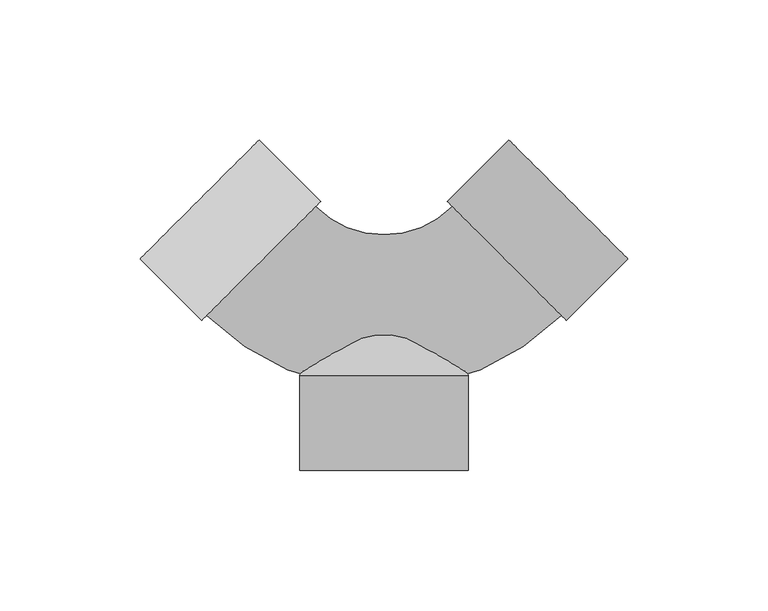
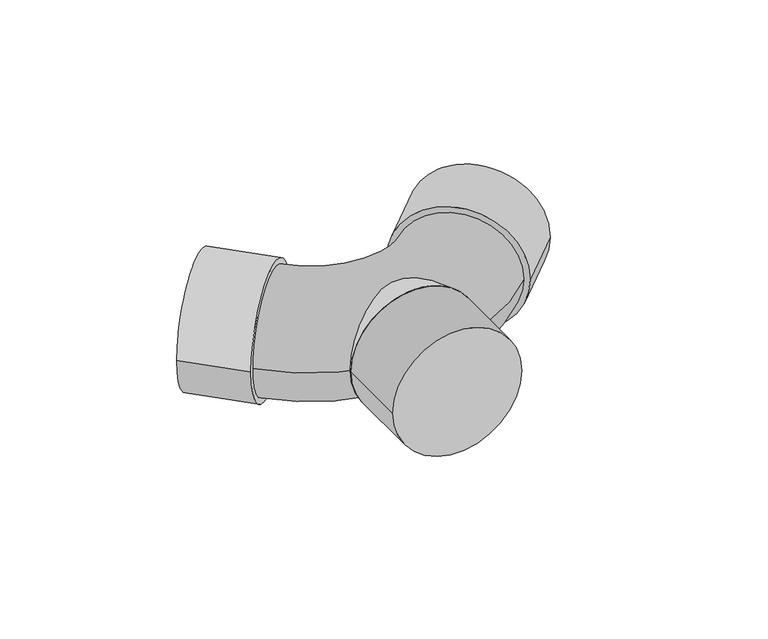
"""IFC4 building model written with IfcOpenShell, lengths in millimetres: pipe fitting geometry, 01051346 : Y Curva c/ injerto."""

from ifc_helpers import new_model, si_unit, point, frame, origin, origin_2d, place, context, project, spatial, polyline, circle_curve, ellipse_curve, trimmed, segment, composite_curve, outline, extrude, source, transform, mapped, element, save
from ifc_brep_helpers import plane_surface, revolved_surface, advanced_brep


def pipe_fitting_e07cff87(model_context):
    return source(origin(), model_context, "Body", "SolidModel", [
        advanced_brep(
        [(25.0, 20.0, 0.0), (-25.0, 20.0, 0.0), (0.0, 20.0, 0.0), (30.0, 3.0, 0.0), (-30.0, 3.0, 0.0), (0.0, 3.0, 0.0)],
        [
            (0, 1, circle_curve(frame((0.0, 20.0, 0.0), z_axis=(0.0, 1.0, 0.0), x_axis=(-1.0, 0.0, 0.0)), 25.0)),
            (1, 2),
            (2, 0),
            (1, 0, circle_curve(frame((0.0, 20.0, 0.0), z_axis=(0.0, 1.0, 0.0), x_axis=(-1.0, 0.0, 0.0)), 25.0)),
            (3, 4, circle_curve(frame((0.0, 3.0, 0.0), z_axis=(0.0, 1.0, 0.0), x_axis=(-1.0, 0.0, 0.0)), 30.0)),
            (4, 1),
            (0, 3),
            (4, 3, circle_curve(frame((0.0, 3.0, 0.0), z_axis=(0.0, 1.0, 0.0), x_axis=(-1.0, 0.0, 0.0)), 30.0)),
            (5, 4),
            (3, 5),
        ],
        [
            plane_surface(frame((0.0, 20.0, 0.0), z_axis=(0.0, 1.0, 0.0), x_axis=(-1.0, 0.0, 0.0))),
            revolved_surface(polyline([(-25.0, 20.0, 0.0), (-30.0, 3.0, 0.0)]), (0.0, 1305.9543131, 0.0), (0.0, -1.0, 0.0)),
            plane_surface(frame((0.0, 3.0, 0.0), z_axis=(0.0, -1.0, 0.0), x_axis=(-1.0, 0.0, 0.0))),
        ],
        [
            (0, [[1, 2, 3]]),
            (0, [[4, -3, -2]]),
            (1, [[5, 6, -1, 7]]),
            (1, [[8, -7, -4, -6]]),
            (2, [[9, -5, 10]]),
            (2, [[-10, -8, -9]]),
        ],
    ),
        extrude(outline(composite_curve([segment(trimmed(circle_curve(origin_2d(), 30.0), [point((0.0, 30.0))], [point((0.0, -30.0))], False, "CARTESIAN"), True, "CONTINUOUS"), segment(trimmed(circle_curve(origin_2d(), 30.0), [point((0.0, -30.0))], [point((0.0, 30.0))], False, "CARTESIAN"), True, "CONTINUOUS")], self_intersect=False)), frame((43.8406204, 43.8406204, 0.0), z_axis=(0.707106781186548, 0.707106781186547, 0.0), x_axis=(0.0, 0.0, 1.0)), (0.0, 0.0, 1.0), 31.0),
        extrude(outline(composite_curve([segment(trimmed(circle_curve(origin_2d(), 30.0), [point((0.0, 30.0))], [point((0.0, -30.0))], False, "CARTESIAN"), True, "CONTINUOUS"), segment(trimmed(circle_curve(origin_2d(), 30.0), [point((0.0, -30.0))], [point((0.0, 30.0))], False, "CARTESIAN"), True, "CONTINUOUS")], self_intersect=False)), frame((-43.8406204, 43.8406204, 0.0), z_axis=(-0.7071067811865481, 0.707106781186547, 0.0), x_axis=(0.0, 0.0, 1.0)), (0.0, 0.0, 1.0), 31.0),
        advanced_brep(
        [(-63.2860569, 24.395184, 0.0), (-24.395184, 63.2860569, 0.0), (63.2860569, 24.395184, 0.0), (24.395184, 63.2860569, 0.0)],
        [
            (0, 1, circle_curve(frame((-43.8406204, 43.8406204, 0.0), z_axis=(-0.7071067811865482, 0.7071067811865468, 0.0), x_axis=(0.7071067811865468, 0.7071067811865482, 0.0)), 27.5)),
            (1, 0, circle_curve(frame((-43.8406204, 43.8406204, 0.0), z_axis=(-0.7071067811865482, 0.7071067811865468, 0.0), x_axis=(0.7071067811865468, 0.7071067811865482, 0.0)), 27.5)),
            (2, 3, circle_curve(frame((43.8406204, 43.8406204, 0.0), z_axis=(0.7071067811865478, 0.7071067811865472, 0.0), x_axis=(-0.7071067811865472, 0.7071067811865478, 0.0)), 27.5)),
            (3, 2, circle_curve(frame((43.8406204, 43.8406204, 0.0), z_axis=(0.7071067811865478, 0.7071067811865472, 0.0), x_axis=(-0.7071067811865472, 0.7071067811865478, 0.0)), 27.5)),
            (3, 1, circle_curve(frame((0.0, 87.6812409, 0.0), z_axis=(0.0, 0.0, -1.0), x_axis=(-0.7071067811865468, -0.7071067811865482, 0.0)), 34.5)),
            (0, 2, circle_curve(frame((0.0, 87.6812409, 0.0), z_axis=(0.0, 0.0, 1.0), x_axis=(-0.7071067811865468, -0.7071067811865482, 0.0)), 89.5)),
        ],
        [
            plane_surface(frame((-43.8406204, 43.8406204, 0.0), z_axis=(-0.7071067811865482, 0.7071067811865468, 0.0), x_axis=(0.0, 0.0, 1.0))),
            plane_surface(frame((43.8406204, 43.8406204, 0.0), z_axis=(0.7071067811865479, 0.7071067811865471, 0.0), x_axis=(0.0, 0.0, 1.0))),
            revolved_surface(trimmed(ellipse_curve(frame((-43.8406204, 43.8406204, 0.0), z_axis=(-0.7071067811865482, 0.7071067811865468, 0.0), x_axis=(0.7071067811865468, 0.7071067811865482, 0.0)), 27.5, 27.5), [point((-63.2860569, 24.395184, 0.0))], [point((-24.395184, 63.2860569, 0.0))], True, "CARTESIAN"), (0.0, 87.6812409, 0.0), (0.0, 0.0, 1.0)),
            revolved_surface(trimmed(ellipse_curve(frame((-43.8406204, 43.8406204, 0.0), z_axis=(-0.7071067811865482, 0.7071067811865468, 0.0), x_axis=(0.7071067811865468, 0.7071067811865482, 0.0)), 27.5, 27.5), [point((-24.395184, 63.2860569, 0.0))], [point((-63.2860569, 24.395184, 0.0))], True, "CARTESIAN"), (0.0, 87.6812409, 0.0), (0.0, 0.0, 1.0)),
        ],
        [
            (0, [[1, 2]]),
            (1, [[3, 4]]),
            (2, [[5, -1, 6, -4]]),
            (3, [[-6, -2, -5, -3]]),
        ],
    ),
        extrude(outline(composite_curve([segment(trimmed(circle_curve(origin_2d(), 30.0), [point((0.0, -30.0))], [point((0.0, 30.0))], False, "CARTESIAN"), True, "CONTINUOUS"), segment(trimmed(circle_curve(origin_2d(), 30.0), [point((0.0, 30.0))], [point((0.0, -30.0))], False, "CARTESIAN"), True, "CONTINUOUS")], self_intersect=False)), frame((0.0, -31.0, 0.0), z_axis=(0.0, 1.0, 0.0), x_axis=(0.0, 0.0, 1.0)), (0.0, 0.0, 1.0), 34.0),
    ])


if __name__ == "__main__":
    model = new_model("IFC4")
    model_context = context("Model", 3, world=origin())
    ifc_project = project(units=[si_unit("LENGTHUNIT", "METRE", prefix="MILLI")], contexts=[model_context])
    site = spatial("IfcSite", under=ifc_project)
    building = spatial("IfcBuilding", under=site)
    placement = place(None, origin())
    pipe_fitting_shape = pipe_fitting_e07cff87(model_context)
    element("IfcPipeFitting", 1, ObjectType="01051346 : Y Curva c/ injerto", at=placement, inside=building, context=model_context, shape_type="MappedRepresentation", body=[
        mapped(pipe_fitting_shape, transform((0.0, 0.0, 0.0), x_axis=(1.0, 0.0, 0.0), y_axis=(0.0, 1.0, 0.0), z_axis=(0.0, 0.0, 1.0))),
    ])
    save(model, "model.ifc")
